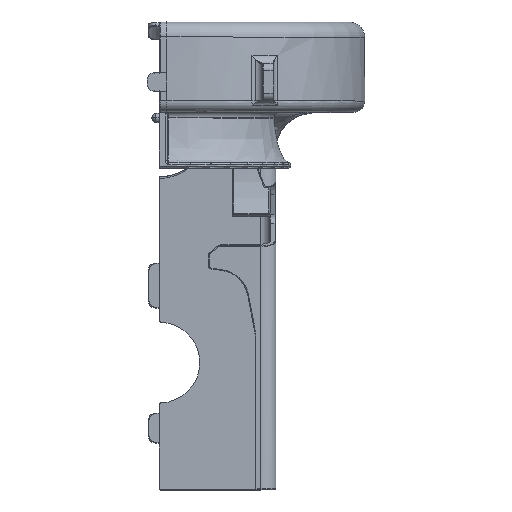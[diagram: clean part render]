
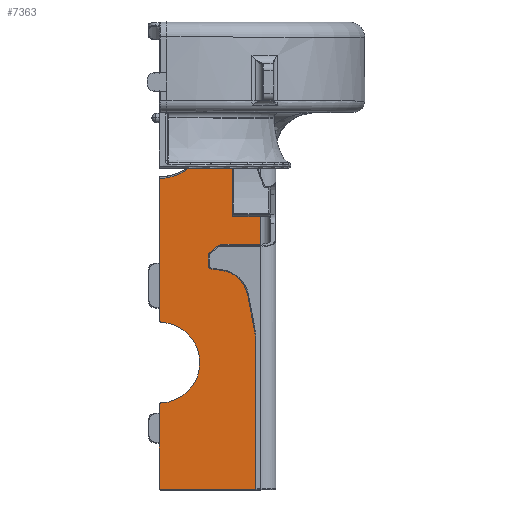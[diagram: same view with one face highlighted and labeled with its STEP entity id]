
A CAD part, top view. The second image highlights one B-rep face of the part: STEP entity #7363.
In plain terms, the highlighted planar face has unit normal (0, 0, 1).
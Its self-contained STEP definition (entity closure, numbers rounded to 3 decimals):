
#584 = DIRECTION ( 'NONE',  ( 1., 0., 0. ) ) ;
#585 = DIRECTION ( 'NONE',  ( 0., 0., 1. ) ) ;
#586 = CARTESIAN_POINT ( 'NONE',  ( -31., 24., -94.5 ) ) ;
#587 = PLANE ( 'NONE',  #12491 ) ;
#1761 =( BOUNDED_CURVE ( )  B_SPLINE_CURVE ( 3, ( #13516, #13515, #13514, #13513 ),
 .UNSPECIFIED., .F., .F. ) 
 B_SPLINE_CURVE_WITH_KNOTS ( ( 4, 4 ),
 ( 5.576, 6.269 ),
 .UNSPECIFIED. ) 
 CURVE ( )  GEOMETRIC_REPRESENTATION_ITEM ( )  RATIONAL_B_SPLINE_CURVE ( ( 1., 0.96, 0.96, 1. ) ) 
 REPRESENTATION_ITEM ( '' )  );
#1852 =( BOUNDED_CURVE ( )  B_SPLINE_CURVE ( 3, ( #10878, #10877, #10876, #10875 ),
 .UNSPECIFIED., .F., .T. ) 
 B_SPLINE_CURVE_WITH_KNOTS ( ( 4, 4 ),
 ( 3.156, 4.712 ),
 .UNSPECIFIED. ) 
 CURVE ( )  GEOMETRIC_REPRESENTATION_ITEM ( )  RATIONAL_B_SPLINE_CURVE ( ( 1., 0.808, 0.808, 1. ) ) 
 REPRESENTATION_ITEM ( '' )  );
#2837 = VECTOR ( 'NONE', #13550, 1000. ) ;
#2848 = VECTOR ( 'NONE', #10794, 1000. ) ;
#2884 = VECTOR ( 'NONE', #13517, 1000. ) ;
#2904 = AXIS2_PLACEMENT_3D ( 'NONE', #13888, #13887, #13886 ) ;
#2914 = AXIS2_PLACEMENT_3D ( 'NONE', #13544, #13543, #13542 ) ;
#2952 = AXIS2_PLACEMENT_3D ( 'NONE', #13901, #13900, #13899 ) ;
#3013 = AXIS2_PLACEMENT_3D ( 'NONE', #14058, #14057, #14056 ) ;
#3019 = VECTOR ( 'NONE', #14101, 1000. ) ;
#3030 = VECTOR ( 'NONE', #14011, 1000. ) ;
#6085 = CIRCLE ( 'NONE', #2914, 10.75 ) ;
#6125 = CIRCLE ( 'NONE', #3013, 0.2 ) ;
#6143 = CIRCLE ( 'NONE', #2952, 0.5 ) ;
#6146 = CIRCLE ( 'NONE', #2904, 0.5 ) ;
#6582 = EDGE_CURVE ( 'NONE', #8324, #8321, #14103, .T. ) ;
#6584 = EDGE_CURVE ( 'NONE', #8319, #8304, #6125, .T. ) ;
#6597 = EDGE_CURVE ( 'NONE', #8321, #8304, #14013, .T. ) ;
#6620 = EDGE_CURVE ( 'NONE', #8329, #8328, #6143, .T. ) ;
#6624 = EDGE_CURVE ( 'NONE', #8301, #8330, #6146, .T. ) ;
#6699 = EDGE_CURVE ( 'NONE', #8311, #8324, #13552, .T. ) ;
#6702 = EDGE_CURVE ( 'NONE', #8329, #8330, #6085, .T. ) ;
#6707 = EDGE_CURVE ( 'NONE', #8301, #8302, #13519, .T. ) ;
#6708 = EDGE_CURVE ( 'NONE', #8311, #8307, #1761, .T. ) ;
#6710 = EDGE_CURVE ( 'NONE', #8307, #8302, #1852, .T. ) ;
#6725 = EDGE_CURVE ( 'NONE', #8319, #8328, #10796, .T. ) ;
#7363 = ADVANCED_FACE ( 'NONE', ( #12400 ), #587, .T. ) ;
#8301 = VERTEX_POINT ( 'NONE', #11674 ) ;
#8302 = VERTEX_POINT ( 'NONE', #11911 ) ;
#8304 = VERTEX_POINT ( 'NONE', #11421 ) ;
#8307 = VERTEX_POINT ( 'NONE', #11709 ) ;
#8311 = VERTEX_POINT ( 'NONE', #11512 ) ;
#8319 = VERTEX_POINT ( 'NONE', #11662 ) ;
#8321 = VERTEX_POINT ( 'NONE', #11544 ) ;
#8324 = VERTEX_POINT ( 'NONE', #11548 ) ;
#8328 = VERTEX_POINT ( 'NONE', #11918 ) ;
#8329 = VERTEX_POINT ( 'NONE', #11092 ) ;
#8330 = VERTEX_POINT ( 'NONE', #11858 ) ;
#10794 = DIRECTION ( 'NONE',  ( 0., 1., 0. ) ) ;
#10795 = CARTESIAN_POINT ( 'NONE',  ( 0., 24., -94.5 ) ) ;
#10796 = LINE ( 'NONE', #10795, #2848 ) ;
#10875 = CARTESIAN_POINT ( 'NONE',  ( 0., -17.66, -94.5 ) ) ;
#10876 = CARTESIAN_POINT ( 'NONE',  ( 0., -17.537, -94.5 ) ) ;
#10877 = CARTESIAN_POINT ( 'NONE',  ( 0.081, -17.449, -94.5 ) ) ;
#10878 = CARTESIAN_POINT ( 'NONE',  ( 0.197, -17.448, -94.5 ) ) ;
#11092 = CARTESIAN_POINT ( 'NONE',  ( 0.478, -77.281, -94.5 ) ) ;
#11421 = CARTESIAN_POINT ( 'NONE',  ( 0.2, -100.5, -94.5 ) ) ;
#11512 = CARTESIAN_POINT ( 'NONE',  ( 8.775, -14., -94.5 ) ) ;
#11544 = CARTESIAN_POINT ( 'NONE',  ( 27., -100.5, -94.5 ) ) ;
#11548 = CARTESIAN_POINT ( 'NONE',  ( 27., -14., -94.5 ) ) ;
#11662 = CARTESIAN_POINT ( 'NONE',  ( 0., -100.3, -94.5 ) ) ;
#11674 = CARTESIAN_POINT ( 'NONE',  ( 0., -55.303, -94.5 ) ) ;
#11709 = CARTESIAN_POINT ( 'NONE',  ( 0.197, -17.448, -94.5 ) ) ;
#11858 = CARTESIAN_POINT ( 'NONE',  ( 0.478, -55.803, -94.5 ) ) ;
#11911 = CARTESIAN_POINT ( 'NONE',  ( 0., -17.66, -94.5 ) ) ;
#11918 = CARTESIAN_POINT ( 'NONE',  ( 0., -77.781, -94.5 ) ) ;
#12273 = EDGE_LOOP ( 'NONE', ( #13511, #13085, #13163, #13220, #13161, #13116, #13121, #13467, #13472, #13230, #13385 ) ) ;
#12400 = FACE_OUTER_BOUND ( 'NONE', #12273, .T. ) ;
#12491 = AXIS2_PLACEMENT_3D ( 'NONE', #586, #585, #584 ) ;
#13085 = ORIENTED_EDGE ( 'NONE', *, *, #6710, .T. ) ;
#13116 = ORIENTED_EDGE ( 'NONE', *, *, #6620, .T. ) ;
#13121 = ORIENTED_EDGE ( 'NONE', *, *, #6725, .F. ) ;
#13161 = ORIENTED_EDGE ( 'NONE', *, *, #6702, .F. ) ;
#13163 = ORIENTED_EDGE ( 'NONE', *, *, #6707, .F. ) ;
#13220 = ORIENTED_EDGE ( 'NONE', *, *, #6624, .T. ) ;
#13230 = ORIENTED_EDGE ( 'NONE', *, *, #6582, .F. ) ;
#13385 = ORIENTED_EDGE ( 'NONE', *, *, #6699, .F. ) ;
#13467 = ORIENTED_EDGE ( 'NONE', *, *, #6584, .T. ) ;
#13472 = ORIENTED_EDGE ( 'NONE', *, *, #6597, .F. ) ;
#13511 = ORIENTED_EDGE ( 'NONE', *, *, #6708, .T. ) ;
#13513 = CARTESIAN_POINT ( 'NONE',  ( 0.197, -17.448, -94.5 ) ) ;
#13514 = CARTESIAN_POINT ( 'NONE',  ( 3.379, -17.398, -94.5 ) ) ;
#13515 = CARTESIAN_POINT ( 'NONE',  ( 6.357, -16.201, -94.5 ) ) ;
#13516 = CARTESIAN_POINT ( 'NONE',  ( 8.775, -14., -94.5 ) ) ;
#13517 = DIRECTION ( 'NONE',  ( 0., 1., 0. ) ) ;
#13518 = CARTESIAN_POINT ( 'NONE',  ( 0., 24., -94.5 ) ) ;
#13519 = LINE ( 'NONE', #13518, #2884 ) ;
#13542 = DIRECTION ( 'NONE',  ( 1., 0., 0. ) ) ;
#13543 = DIRECTION ( 'NONE',  ( 0., 0., 1. ) ) ;
#13544 = CARTESIAN_POINT ( 'NONE',  ( 0., -66.542, -94.5 ) ) ;
#13550 = DIRECTION ( 'NONE',  ( 1., 0., 0. ) ) ;
#13551 = CARTESIAN_POINT ( 'NONE',  ( -31., -14., -94.5 ) ) ;
#13552 = LINE ( 'NONE', #13551, #2837 ) ;
#13886 = DIRECTION ( 'NONE',  ( 1., 0., 0. ) ) ;
#13887 = DIRECTION ( 'NONE',  ( 0., 0., 1. ) ) ;
#13888 = CARTESIAN_POINT ( 'NONE',  ( 0.5, -55.303, -94.5 ) ) ;
#13899 = DIRECTION ( 'NONE',  ( 1., 0., 0. ) ) ;
#13900 = DIRECTION ( 'NONE',  ( 0., 0., 1. ) ) ;
#13901 = CARTESIAN_POINT ( 'NONE',  ( 0.5, -77.781, -94.5 ) ) ;
#14011 = DIRECTION ( 'NONE',  ( -1., 0., 0. ) ) ;
#14012 = CARTESIAN_POINT ( 'NONE',  ( -31., -100.5, -94.5 ) ) ;
#14013 = LINE ( 'NONE', #14012, #3030 ) ;
#14056 = DIRECTION ( 'NONE',  ( 1., 0., 0. ) ) ;
#14057 = DIRECTION ( 'NONE',  ( 0., 0., 1. ) ) ;
#14058 = CARTESIAN_POINT ( 'NONE',  ( 0.2, -100.3, -94.5 ) ) ;
#14101 = DIRECTION ( 'NONE',  ( 0., -1., 0. ) ) ;
#14102 = CARTESIAN_POINT ( 'NONE',  ( 27., 24., -94.5 ) ) ;
#14103 = LINE ( 'NONE', #14102, #3019 ) ;
